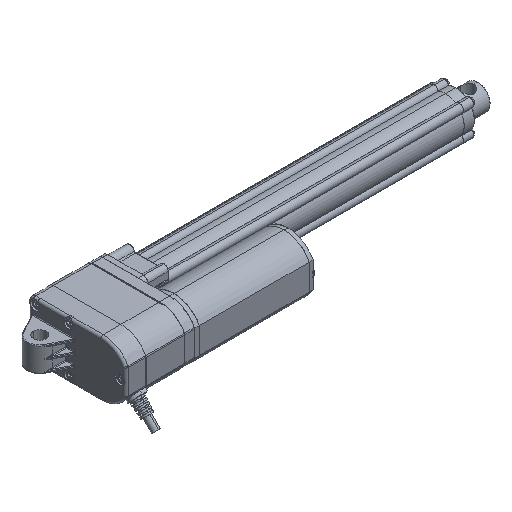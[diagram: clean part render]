
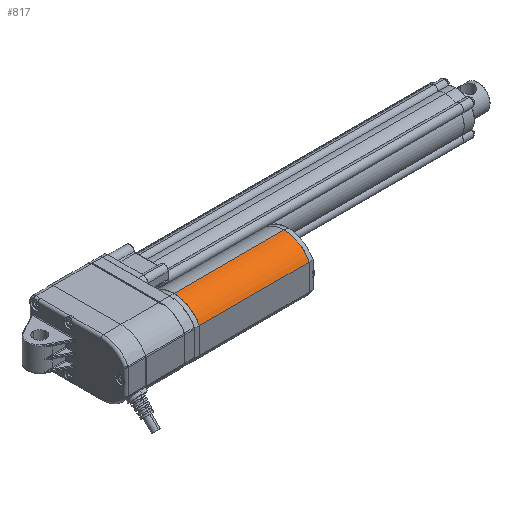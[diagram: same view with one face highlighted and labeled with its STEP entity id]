
A CAD part, isometric view. The second image highlights one B-rep face of the part: STEP entity #817.
In plain terms, the highlighted cylindrical face has radius 22.5 mm (diameter 45 mm), a partial arc.
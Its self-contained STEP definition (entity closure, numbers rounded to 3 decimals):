
#817=ADVANCED_FACE('NONE',(#2371),#2372,.T.);
#2371=FACE_OUTER_BOUND('',#4685,.T.);
#2372=CYLINDRICAL_SURFACE('',#4686,22.5);
#4685=EDGE_LOOP('',(#10497,#10498,#10499,#10500));
#4686=AXIS2_PLACEMENT_3D('',#10501,#10502,#10503);
#10497=ORIENTED_EDGE('',*,*,#17063,.F.);
#10498=ORIENTED_EDGE('',*,*,#17064,.T.);
#10499=ORIENTED_EDGE('',*,*,#17065,.T.);
#10500=ORIENTED_EDGE('',*,*,#17066,.T.);
#10501=CARTESIAN_POINT('',(129.995,-37.35,0.));
#10502=DIRECTION('',(1.0,0.,0.));
#10503=DIRECTION('',(0.,0.,-1.0));
#17063=EDGE_CURVE('',#19862,#19863,#19864,.T.);
#17064=EDGE_CURVE('NONE',#19862,#19865,#19866,.T.);
#17065=EDGE_CURVE('NONE',#19865,#19867,#19868,.T.);
#17066=EDGE_CURVE('NONE',#19867,#19863,#19869,.T.);
#19862=VERTEX_POINT('NONE',#24116);
#19863=VERTEX_POINT('NONE',#24117);
#19864=LINE('',#24118,#24119);
#19865=VERTEX_POINT('NONE',#24120);
#19866=CIRCLE('',#24121,22.5);
#19867=VERTEX_POINT('NONE',#24122);
#19868=LINE('',#24123,#24124);
#19869=CIRCLE('',#24125,22.5);
#24116=CARTESIAN_POINT('',(42.595,-37.35,22.5));
#24117=CARTESIAN_POINT('',(129.895,-37.35,22.5));
#24118=CARTESIAN_POINT('',(86.245,-37.35,22.5));
#24119=VECTOR('',#34553,1.0);
#24120=CARTESIAN_POINT('',(42.595,-57.35,10.308));
#24121=AXIS2_PLACEMENT_3D('',#34554,#34555,#34556);
#24122=CARTESIAN_POINT('',(129.895,-57.35,10.308));
#24123=CARTESIAN_POINT('',(129.995,-57.35,10.308));
#24124=VECTOR('',#34557,1000.0);
#24125=AXIS2_PLACEMENT_3D('',#34558,#34559,#34560);
#34553=DIRECTION('',(1.0,0.,0.));
#34554=CARTESIAN_POINT('',(42.595,-37.35,0.));
#34555=DIRECTION('',(1.0,0.,0.));
#34556=DIRECTION('',(0.,0.,-1.0));
#34557=DIRECTION('',(1.0,0.,0.));
#34558=CARTESIAN_POINT('',(129.895,-37.35,0.));
#34559=DIRECTION('',(-1.0,0.,0.));
#34560=DIRECTION('',(0.,0.,-1.0));
